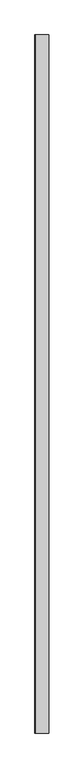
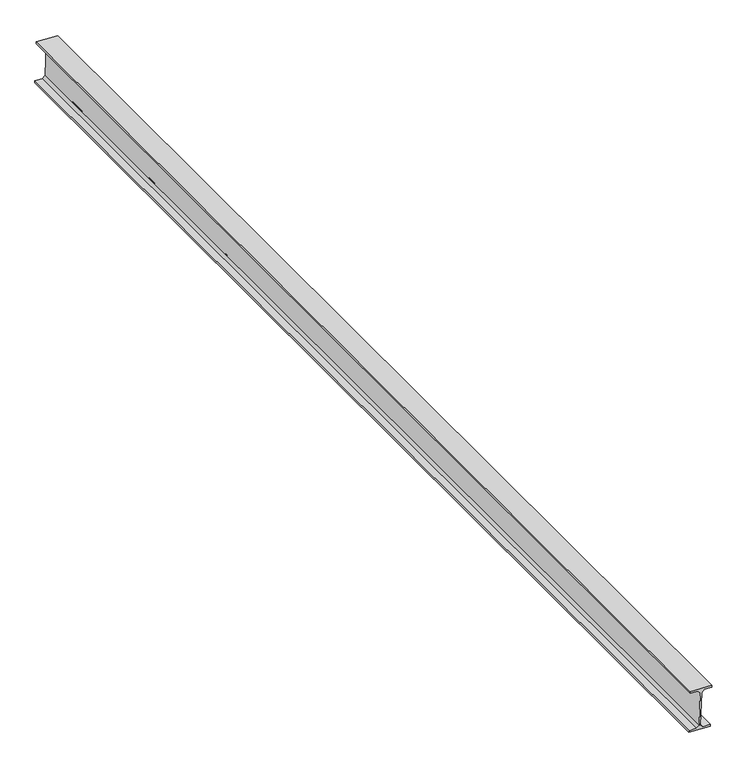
"""IFC4 building model written with IfcOpenShell, lengths in millimetres: beam geometry, Panne 185050 : Panne 185050."""

from ifc_helpers import new_model, si_unit, frame, origin, place, context, project, spatial, polyline, outline, extrude, source, transform, mapped, element, save


def beam_8f998c1d(model_context):
    return source(origin(), model_context, "Body", "SweptSolid", [
        extrude(outline(polyline([(7902.0135709, 3762.469403), (7905.5114291, 3662.5305968), (7897.0166306, 3662.2332788), (7895.7853845, 3697.4117386), (7883.3729848, 3708.9846524), (7724.4702829, 3703.4230578), (7712.8973691, 3691.0106581), (7714.1286152, 3655.8321983), (7705.6338167, 3655.5348803), (7702.1359585, 3755.4736865), (7710.630757, 3755.7710045), (7711.8620031, 3720.5925447), (7724.2744028, 3709.0196309), (7883.1771047, 3714.5812255), (7894.7500185, 3726.9936252), (7893.5187724, 3762.172085), (7902.0135709, 3762.469403)])), frame((0.0, -34330.0, 0.0), z_axis=(0.0, 1.0, 0.0), x_axis=(0.0, 0.0, 1.0)), (0.0, 0.0, 1.0), 5330.0),
    ])


if __name__ == "__main__":
    model = new_model("IFC4")
    model_context = context("Model", 3, world=origin())
    ifc_project = project(units=[si_unit("LENGTHUNIT", "METRE", prefix="MILLI")], contexts=[model_context])
    site = spatial("IfcSite", under=ifc_project)
    building = spatial("IfcBuilding", under=site)
    placement = place(None, origin())
    beam_shape = beam_8f998c1d(model_context)
    element("IfcBeam", 1, ObjectType="Panne 185050 : Panne 185050", at=placement, inside=building, context=model_context, shape_type="MappedRepresentation", body=[
        mapped(beam_shape, transform((0.0, 0.0, 0.0), x_axis=(1.0, 0.0, 0.0), y_axis=(0.0, 1.0, 0.0), z_axis=(0.0, 0.0, 1.0))),
    ])
    save(model, "model.ifc")
